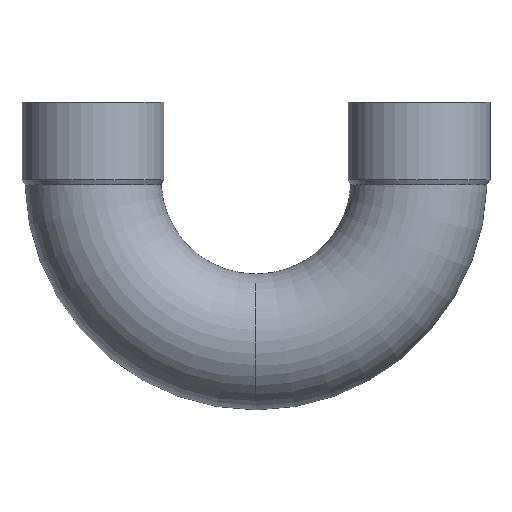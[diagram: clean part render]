
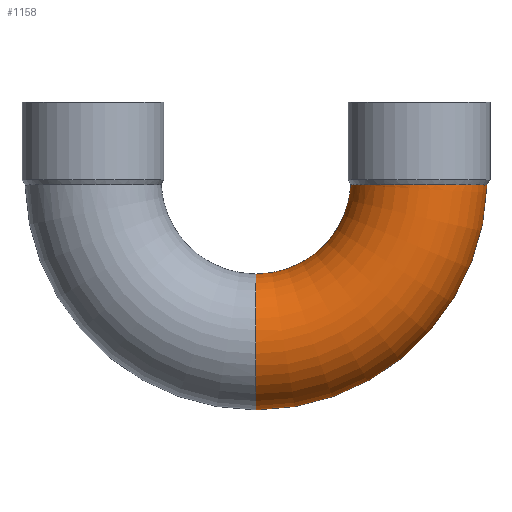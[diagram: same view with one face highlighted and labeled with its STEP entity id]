
A CAD part, front view. The second image highlights one B-rep face of the part: STEP entity #1158.
In plain terms, the highlighted toroidal (fillet/blend) face has major radius 76.8 mm and minor radius 32 mm.
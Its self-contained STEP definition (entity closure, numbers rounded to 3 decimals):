
#51=CARTESIAN_POINT('',(22.035,0.,-108.8));
#52=VERTEX_POINT('',#51);
#85=CARTESIAN_POINT('',(22.035,0.,-44.8));
#86=VERTEX_POINT('',#85);
#109=CARTESIAN_POINT('',(130.797,0.,-2.865));
#110=VERTEX_POINT('',#109);
#111=CARTESIAN_POINT('',(22.035,0.,0.0));
#112=DIRECTION('',(0.0,-1.0,0.0));
#113=DIRECTION('',(0.0,0.0,-1.0));
#114=AXIS2_PLACEMENT_3D('',#111,#112,#113);
#115=CIRCLE('',#114,108.8);
#116=EDGE_CURVE('',#52,#110,#115,.T.);
#119=CARTESIAN_POINT('',(66.756,0.,-2.663));
#120=VERTEX_POINT('',#119);
#121=CARTESIAN_POINT('',(22.035,0.,0.0));
#122=DIRECTION('',(0.0,1.0,0.0));
#123=DIRECTION('',(0.0,0.0,-1.0));
#124=AXIS2_PLACEMENT_3D('',#121,#122,#123);
#125=CIRCLE('',#124,44.8);
#126=EDGE_CURVE('',#120,#86,#125,.T.);
#1119=CARTESIAN_POINT('',(22.035,0.,0.0));
#1120=DIRECTION('',(0.0,-1.0,0.0));
#1121=DIRECTION('',(0.0,0.0,-1.0));
#1122=AXIS2_PLACEMENT_3D('',#1119,#1120,#1121);
#1123=TOROIDAL_SURFACE('',#1122,76.8,32.0);
#1124=ORIENTED_EDGE('',*,*,#116,.T.);
#1125=CARTESIAN_POINT('',(130.797,0.,-2.865));
#1126=CARTESIAN_POINT('',(130.797,-2.359,-2.865));
#1127=CARTESIAN_POINT('',(130.536,-4.71,-2.865));
#1128=CARTESIAN_POINT('',(129.502,-9.313,-2.863));
#1129=CARTESIAN_POINT('',(128.733,-11.55,-2.862));
#1130=CARTESIAN_POINT('',(125.941,-17.449,-2.858));
#1131=CARTESIAN_POINT('',(123.44,-20.832,-2.854));
#1132=CARTESIAN_POINT('',(117.281,-26.449,-2.843));
#1133=CARTESIAN_POINT('',(113.681,-28.63,-2.836));
#1134=CARTESIAN_POINT('',(105.845,-31.489,-2.818));
#1135=CARTESIAN_POINT('',(101.685,-32.14,-2.808));
#1136=CARTESIAN_POINT('',(93.347,-31.81,-2.785));
#1137=CARTESIAN_POINT('',(89.25,-30.832,-2.771));
#1138=CARTESIAN_POINT('',(81.663,-27.361,-2.742));
#1139=CARTESIAN_POINT('',(78.245,-24.902,-2.727));
#1140=CARTESIAN_POINT('',(72.548,-18.818,-2.698));
#1141=CARTESIAN_POINT('',(70.322,-15.251,-2.685));
#1142=CARTESIAN_POINT('',(67.462,-7.728,-2.668));
#1143=CARTESIAN_POINT('',(66.756,-3.879,-2.663));
#1144=CARTESIAN_POINT('',(66.756,0.,-2.663));
#1145=B_SPLINE_CURVE_WITH_KNOTS('',3,(#1125,#1126,#1127,#1128,#1129,#1130,#1131,#1132,#1133,#1134,#1135,#1136,#1137,#1138,#1139,#1140,#1141,#1142,#1143,#1144),.UNSPECIFIED.,.F.,.U.,(4,2,2,2,2,2,2,2,2,4),(-20.173,-19.465,-18.757,-17.507,-16.256,-15.005,-13.753,-12.502,-11.253,-10.088),.UNSPECIFIED.);
#1146=EDGE_CURVE('',#110,#120,#1145,.T.);
#1147=ORIENTED_EDGE('',*,*,#1146,.T.);
#1148=ORIENTED_EDGE('',*,*,#126,.T.);
#1149=CARTESIAN_POINT('',(22.035,0.,-76.8));
#1150=DIRECTION('',(-1.0,0.0,0.0));
#1151=DIRECTION('',(0.0,0.0,-1.0));
#1152=AXIS2_PLACEMENT_3D('',#1149,#1150,#1151);
#1153=CIRCLE('',#1152,32.0);
#1154=EDGE_CURVE('',#52,#86,#1153,.T.);
#1155=ORIENTED_EDGE('',*,*,#1154,.F.);
#1156=EDGE_LOOP('',(#1124,#1147,#1148,#1155));
#1157=FACE_OUTER_BOUND('',#1156,.T.);
#1158=ADVANCED_FACE('',(#1157),#1123,.T.);
